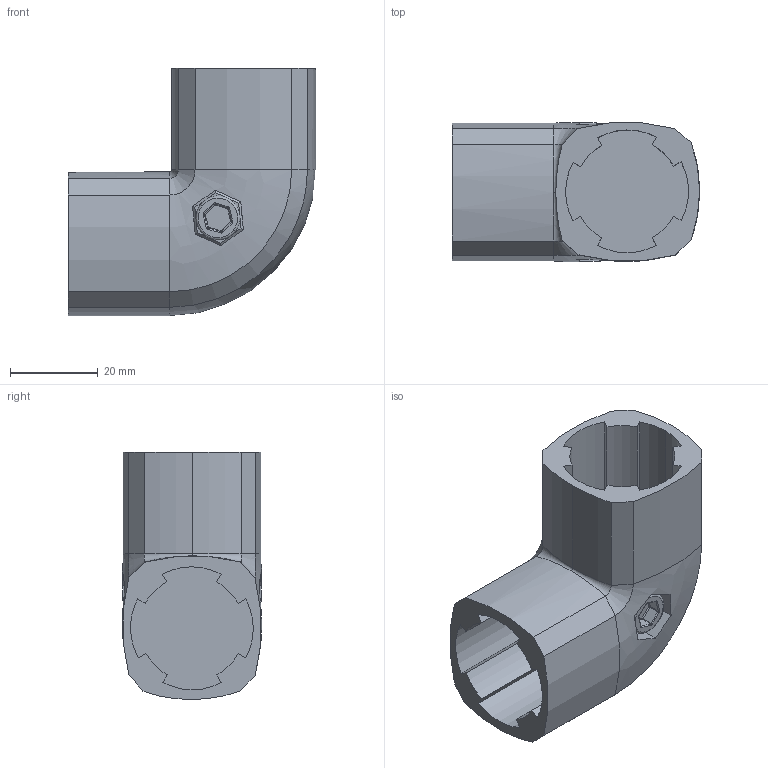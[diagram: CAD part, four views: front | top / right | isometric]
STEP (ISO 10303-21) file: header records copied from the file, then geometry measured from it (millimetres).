
FILE_DESCRIPTION (( 'STEP AP203' ), '1' );
FILE_NAME ('1105.STEP', '2016-05-29T11:43:52', ( 'RosInstal-MKM' ), ( '' ), 'SwSTEP 2.0', 'SolidWorks 2014', '' );
FILE_SCHEMA (( 'CONFIG_CONTROL_DESIGN' ));
Length unit declared in the file: millimetre
Products named in the file (4): 櫻蠉錪1; ãàéêà08; 鎔艜08; 1105
Assembly tree (3 placements, depth 2):
  1105
    櫻蠉錪1
    ãàéêà08
    鎔艜08
Bounding box: 56.2 x 31.63 x 56.2 mm (x, y, z)
Volume: 38492.6 mm3; surface area: 16505.8 mm2
Topology: 3 solids, 3 shells, 145 faces, 348 edges, 206 vertices
Faces by surface type: plane 64, cylinder 53, torus 15, sphere 7, cone 6
Entity records: 4547 total; most frequent: DIRECTION 765, CARTESIAN_POINT 736, ORIENTED_EDGE 680, EDGE_CURVE 340, AXIS2_PLACEMENT_3D 286, VERTEX_POINT 205, VECTOR 193, LINE 193
